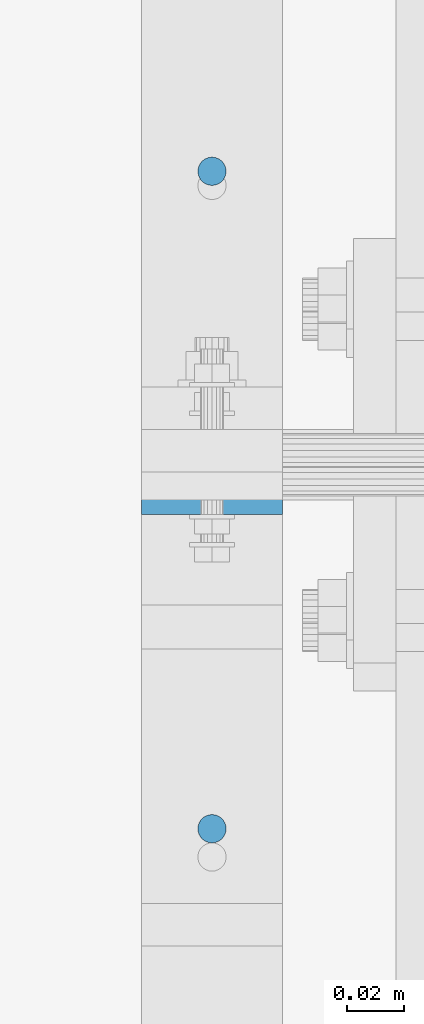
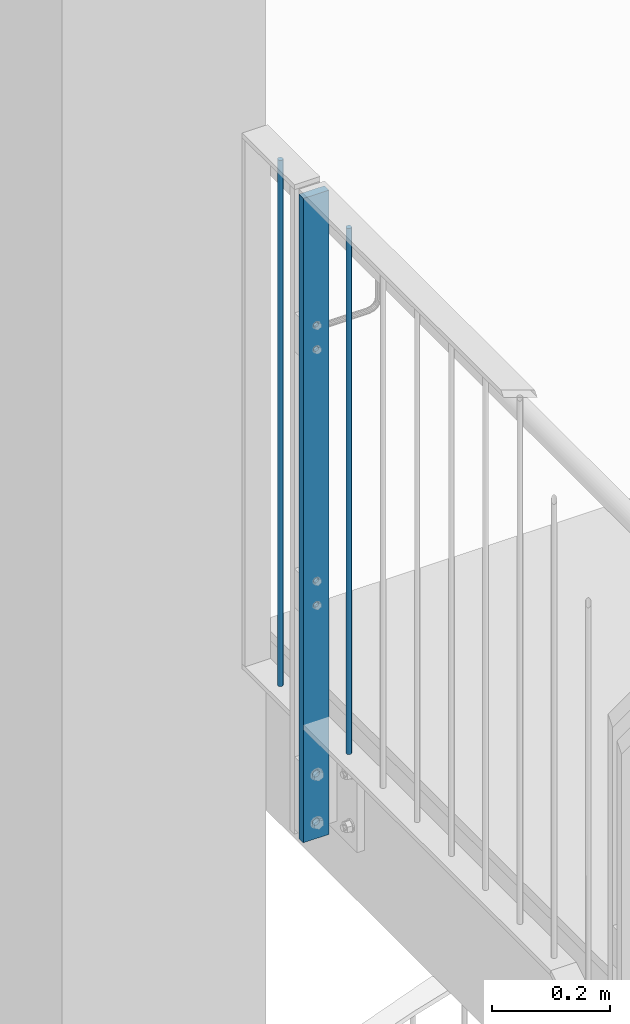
# One storey, part 50 of 296: 3 columns, 6 openings.
"""IFC2X3 building model written with IfcOpenShell, lengths in millimetres."""

from ifc_helpers import new_model, entity, si_unit, converted_unit, frame, frame_2d, origin, origin_with_axes, origin_2d, place, context, project, spatial, rectangle, circle, extrude, material, element, save


model = new_model("IFC2X3")

# Units and contexts
model_context = context("Model", 3, precision=1e-09, world=origin_with_axes())
ifc_project = project(units=[si_unit("LENGTHUNIT", "METRE", prefix="MILLI"), si_unit("AREAUNIT", "SQUARE_METRE"), si_unit("VOLUMEUNIT", "CUBIC_METRE"), converted_unit("PLANEANGLEUNIT", "DEGREE", entity("IfcPlaneAngleMeasure", 0.01745329), si_unit("PLANEANGLEUNIT", "RADIAN"), dimensions=[0, 0, 0, 0, 0, 0, 0])], contexts=[model_context])

# Site, building, storey
site_placement = place(None, origin_with_axes())
site = spatial("IfcSite", under=ifc_project, at=site_placement, Name="TZD-S?d | Treppenhausgel?nder", CompositionType="ELEMENT")
building_placement = place(site_placement, origin_with_axes())
building = spatial("IfcBuilding", under=site, at=building_placement, Name="Struktur 1", CompositionType="ELEMENT")
storey_placement = place(building_placement, origin_with_axes())
storey = spatial("IfcBuildingStorey", under=building, at=storey_placement, Name="Default Storey", CompositionType="ELEMENT", Elevation=0.0)

# Column, openings
ifc_material = material(Name="S235JR")
column_placement = place(None, frame((-45.0, -495.0, 11480.001), z_axis=(0.0, 0.0, 1.0), x_axis=(0.0, 1.0, 0.0)))
column = element("IfcColumn", 1, at=column_placement, inside=storey, material=ifc_material, Name="-", ObjectType="-", context=model_context, shape_type="SweptSolid", body=[
    extrude(rectangle(XDim=15.0, YDim=50.0, at=origin_2d()), origin(), (0.0, 0.0, 1.0), 1334.999),
])
opening_1_placement = place(column_placement, frame((8.0, 0.0, 85.0), z_axis=(-1.0, 0.0, 0.0), x_axis=(0.0, -1.0, 0.0)))
element("IfcOpeningElement", 2, at=opening_1_placement, cuts=column, ObjectType="Opening", context=model_context, shape_type="SweptSolid", body=[
    extrude(circle(Radius=7.001, at=frame_2d((0.0, 50.0), x_axis=(1.0, 0.0))), origin(), (0.0, 0.0, 1.0), 16.0),
])
opening_2_placement = place(column_placement, frame((8.0, 0.0, 85.0), z_axis=(-1.0, 0.0, 0.0), x_axis=(0.0, -1.0, 0.0)))
element("IfcOpeningElement", 3, at=opening_2_placement, cuts=column, ObjectType="Opening", context=model_context, shape_type="SweptSolid", body=[
    extrude(circle(Radius=7.001, at=frame_2d((0.0, -50.0), x_axis=(1.0, 0.0))), origin(), (0.0, 0.0, 1.0), 16.0),
])
opening_3_placement = place(column_placement, frame((8.0, 0.0, 1039.999999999), z_axis=(-1.0, 0.0, 0.0), x_axis=(0.0, -1.0, 0.0)))
element("IfcOpeningElement", 4, at=opening_3_placement, cuts=column, ObjectType="Opening", context=model_context, shape_type="SweptSolid", body=[
    extrude(circle(Radius=5.001, at=frame_2d((0.0, 25.0), x_axis=(1.0, 0.0))), origin(), (0.0, 0.0, 1.0), 16.0),
])
opening_4_placement = place(column_placement, frame((8.0, 0.0, 1039.999999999), z_axis=(-1.0, 0.0, 0.0), x_axis=(0.0, -1.0, 0.0)))
element("IfcOpeningElement", 5, at=opening_4_placement, cuts=column, ObjectType="Opening", context=model_context, shape_type="SweptSolid", body=[
    extrude(circle(Radius=5.001, at=frame_2d((0.0, -25.0), x_axis=(1.0, 0.0))), origin(), (0.0, 0.0, 1.0), 16.0),
])
opening_5_placement = place(column_placement, frame((8.0, 0.0, 509.999999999), z_axis=(-1.0, 0.0, 0.0), x_axis=(0.0, -1.0, 0.0)))
element("IfcOpeningElement", 6, at=opening_5_placement, cuts=column, ObjectType="Opening", context=model_context, shape_type="SweptSolid", body=[
    extrude(circle(Radius=5.001, at=frame_2d((0.0, 25.0), x_axis=(1.0, 0.0))), origin(), (0.0, 0.0, 1.0), 16.0),
])
opening_6_placement = place(column_placement, frame((8.0, 0.0, 509.999999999), z_axis=(-1.0, 0.0, 0.0), x_axis=(0.0, -1.0, 0.0)))
element("IfcOpeningElement", 7, at=opening_6_placement, cuts=column, ObjectType="Opening", context=model_context, shape_type="SweptSolid", body=[
    extrude(circle(Radius=5.001, at=frame_2d((0.0, -25.0), x_axis=(1.0, 0.0))), origin(), (0.0, 0.0, 1.0), 16.0),
])

# Columns
for number, where, z_axis, x_axis in (
    (8, (-45.0, -613.6111111, 11725.0), (0.0, 0.0, 1.0), (0.0, 1.0, 0.0)),
    (9, (-45.0, -381.25, 11725.0), (0.0, 0.0, 1.0), (0.0, 1.0, 0.0)),
):
    element("IfcColumn", number, at=place(None, frame(where, z_axis=z_axis, x_axis=x_axis)), inside=storey, material=ifc_material, Name="-", ObjectType="-", context=model_context, shape_type="SweptSolid", body=[
        extrude(circle(Radius=5.0, at=origin_2d()), origin(), (0.0, 0.0, 1.0), 1090.0),
    ])

save(model, "model.ifc")
